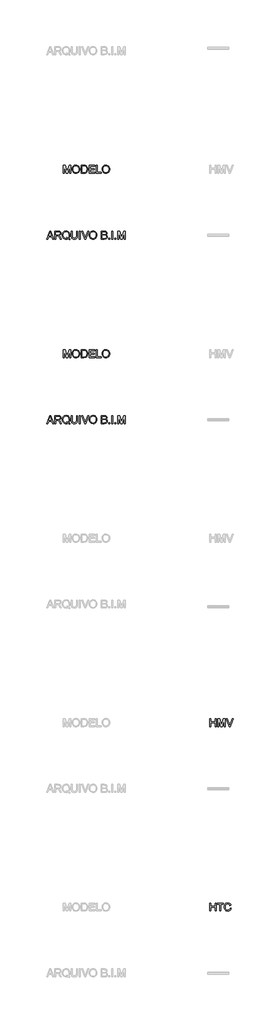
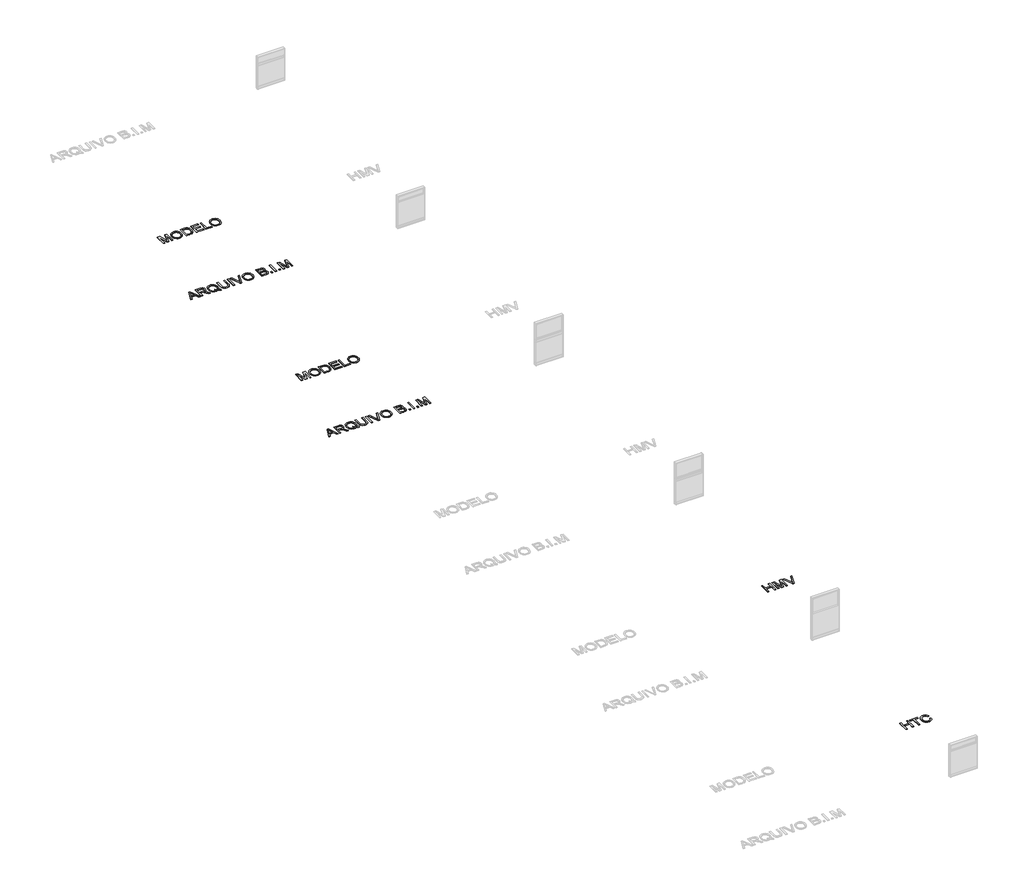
# One storey, part 4 of 8: 6 proxies.
"""IFC4 building model written with IfcOpenShell, lengths in millimetres."""

from ifc_helpers import new_model, si_unit, origin, origin_with_axes, place, context, project, spatial, polyline, outline, extrude, element, save

model = new_model("IFC4")

# Units and contexts
model_context = context("Model", 3, world=origin())
ifc_project = project(units=[si_unit("LENGTHUNIT", "METRE", prefix="MILLI")], contexts=[model_context])

# Site, building, storey
site = spatial("IfcSite", under=ifc_project)
building = spatial("IfcBuilding", under=site)
storey = spatial("IfcBuildingStorey", under=building, Name="Marelli - Linha HABITAT - Planta Baixa", Elevation=0.0)

# Proxies
placement = place(None, origin())
element("IfcBuildingElementProxy", 1, Name="300mm Arial", ObjectType="300mm Arial", at=placement, inside=storey, context=model_context, shape_type="SweptSolid", body=[
    extrude(outline(polyline([(29390.580402, -38280.5663201), (29510.8778144, -37979.1973896), (29542.9571244, -37979.1973896), (29663.2545368, -38280.5663201), (29623.449705, -38280.5663201), (29588.9423738, -38186.3885293), (29464.8189886, -38186.3885293), (29430.3852339, -38280.5663201), (29390.580402, -38280.5663201)]), holes=[polyline([(29478.6513517, -38148.717413), (29575.1835872, -38148.717413), (29548.0338959, -38074.6259792), (29526.9174694, -38016.8685059), (29508.1554877, -38068.1512561), (29478.6513517, -38148.717413)])]), origin_with_axes(), (0.0, 0.0, 1.0), 10.0),
    extrude(outline(polyline([(29703.5008271, -38280.5663201), (29703.5008271, -37979.1973896), (29833.3631714, -37979.1973896), (29868.2659757, -37981.2299376), (29893.6590304, -37987.3275817), (29912.2186771, -37998.5847708), (29926.6212572, -38016.0959537), (29935.8642923, -38037.8101885), (29938.945304, -38061.6765329), (29933.8409413, -38091.3646099), (29918.5278533, -38115.9759154), (29906.9280741, -38126.0052983), (29892.5461874, -38134.0205273), (29855.4360911, -38144.0085235), (29876.8468232, -38160.1217548), (29907.3810288, -38198.8965171), (29957.6337094, -38280.5663201), (29913.855752, -38280.5663201), (29874.6395313, -38218.0999573), (29846.3126176, -38176.750021), (29826.4102017, -38157.2154871), (29808.4943485, -38150.0417882), (29786.642158, -38148.717413), (29741.1719434, -38148.717413), (29741.1719434, -38280.5663201), (29703.5008271, -38280.5663201)]), holes=[polyline([(29741.1719434, -38111.0462967), (29825.4904967, -38111.0462967), (29849.706329, -38109.7127245), (29868.4959019, -38105.7120078), (29882.6409647, -38098.7774322), (29892.9232664, -38088.6422832), (29899.1864574, -38076.3826157), (29901.2741877, -38063.0744845), (29897.2918651, -38044.6987789), (29885.3448973, -38029.8915286), (29864.7894908, -38020.1242616), (29834.9818522, -38016.8685059), (29741.1719434, -38016.8685059), (29741.1719434, -38111.0462967)])]), origin_with_axes(), (0.0, 0.0, 1.0), 10.0),
    extrude(outline(polyline([(30231.2643374, -38244.4403081), (30255.5997314, -38263.036743), (30277.9853508, -38275.8574305), (30267.8318077, -38303.4485802), (30236.7641732, -38289.0460001), (30205.8069033, -38268.205485), (30170.9500843, -38281.0077785), (30132.5983863, -38285.2752096), (30094.0627473, -38280.3547879), (30059.2427164, -38265.5935229), (30030.0788713, -38241.9203165), (30008.5117893, -38210.2640708), (29995.185264, -38172.3630282), (29990.7430889, -38129.9554312), (29995.176067, -38087.511046), (30008.4750011, -38049.0581805), (30029.9593096, -38016.9512794), (30058.9484108, -37993.5447874), (30093.639683, -37979.2525719), (30132.2305043, -37974.4885001), (30171.1248282, -37979.3629365), (30205.9908443, -37993.9862458), (30234.9339603, -38017.3835407), (30256.0595839, -38048.5799339), (30268.9722419, -38085.9199564), (30273.2764612, -38127.7481393), (30270.6644991, -38162.5313819), (30262.8286126, -38193.5990164), (30249.7136194, -38220.9142546), (30231.2643374, -38244.4403081)]), holes=[polyline([(30142.9726585, -38194.3347804), (30174.6472983, -38206.3093393), (30200.215097, -38222.9559996), (30215.6983305, -38205.4816049), (30226.7577829, -38184.1076609), (30233.3934544, -38158.8341679), (30235.6053449, -38129.6611256), (30232.478348, -38096.5057608), (30223.0973571, -38067.8201623), (30207.6922985, -38044.3308969), (30186.4930986, -38026.7645316), (30160.934497, -38015.8108452), (30132.4512335, -38012.1596164), (30110.966925, -38014.0059242), (30091.3956028, -38019.5448474), (30073.7372671, -38028.7763863), (30057.9919177, -38041.7005406), (30045.0516685, -38058.2897193), (30035.8086334, -38078.5163313), (30030.2628123, -38102.3803764), (30028.4142053, -38129.8818548), (30030.2421189, -38156.6659634), (30035.7258599, -38180.1437324), (30044.8654282, -38200.3151621), (30057.6608239, -38217.1802523), (30073.2981079, -38230.4906827), (30090.9633415, -38239.9981331), (30110.6565245, -38245.7026032), (30132.3776571, -38247.6040933), (30153.2917485, -38245.6727128), (30172.918253, -38239.8785714), (30153.6228423, -38229.853787), (30133.2605739, -38223.1767288), (30142.9726585, -38194.3347804)])]), origin_with_axes(), (0.0, 0.0, 1.0), 10.0),
    extrude(outline(polyline([(30527.5564963, -37979.1973896), (30565.2276126, -37979.1973896), (30565.2276126, -38153.0584205), (30562.6708327, -38193.7737604), (30555.0004931, -38225.1265034), (30540.6714894, -38249.3147446), (30518.1387172, -38268.5365788), (30487.3469942, -38281.0905519), (30448.2411381, -38285.2752096), (30409.9906077, -38281.6331779), (30379.4104168, -38270.7070826), (30356.4913685, -38252.8740029), (30341.2242657, -38228.5110178), (30332.6434182, -38195.8338995), (30329.7831357, -38153.0584205), (30329.7831357, -37979.1973896), (30367.454252, -37979.1973896), (30367.454252, -38151.7340454), (30369.3120561, -38185.588386), (30374.8854683, -38209.1604248), (30384.9838291, -38225.4851883), (30400.4164788, -38237.597703), (30420.5396239, -38245.1024957), (30444.709471, -38247.6040933), (30483.0243808, -38242.6560805), (30497.3671801, -38236.4710644), (30508.500209, -38227.812042), (30516.8373347, -38215.6351479), (30522.7924245, -38198.8965171), (30527.5564963, -38151.7340454), (30527.5564963, -37979.1973896)])), origin_with_axes(), (0.0, 0.0, 1.0), 10.0),
    extrude(outline(polyline([(30635.8609557, -38280.5663201), (30635.8609557, -37979.1973896), (30673.532072, -37979.1973896), (30673.532072, -38280.5663201), (30635.8609557, -38280.5663201)])), origin_with_axes(), (0.0, 0.0, 1.0), 10.0),
    extrude(outline(polyline([(30837.9017474, -38280.5663201), (30717.972217, -37979.1973896), (30758.2920837, -37979.1973896), (30838.563935, -38196.3213432), (30854.8243192, -38245.2496485), (30870.8639742, -38196.3213432), (30951.3565547, -37979.1973896), (30991.6764214, -37979.1973896), (30876.8236625, -38280.5663201), (30837.9017474, -38280.5663201)])), origin_with_axes(), (0.0, 0.0, 1.0), 10.0),
    extrude(outline(polyline([(31012.5721187, -38133.8549804), (31015.0829134, -38098.5061192), (31022.6152972, -38067.213157), (31035.1692703, -38039.9760937), (31052.7448326, -38016.7949295), (31074.288922, -37998.2858666), (31098.7484761, -37985.0651074), (31126.1234951, -37977.1326519), (31156.4139789, -37974.4885001), (31195.9428992, -37979.454907), (31231.3883295, -37994.3541278), (31260.8188891, -38018.1376988), (31282.3031976, -38049.7571563), (31295.4365848, -38087.68579), (31299.8143806, -38130.3968896), (31295.2066586, -38173.6782064), (31281.3834926, -38212.140269), (31259.1082378, -38243.8149088), (31229.1442493, -38266.733957), (31194.0023217, -38280.6398965), (31156.1932497, -38285.2752096), (31116.057324, -38280.1524528), (31080.4095587, -38264.7841825), (31051.0525754, -38240.5591531), (31029.7889961, -38208.8661192), (31016.8763381, -38172.3998164), (31012.5721187, -38133.8549804)]), holes=[polyline([(31050.2432351, -38134.2228624), (31052.126331, -38159.1974513), (31057.7756189, -38181.3669401), (31067.1910987, -38200.7313286), (31080.3727705, -38217.2906169), (31096.3963306, -38230.5527628), (31114.3374757, -38240.0257242), (31134.1962056, -38245.709501), (31155.9725205, -38247.6040933), (31178.1213158, -38245.6911069), (31198.2145706, -38239.9521478), (31216.2522846, -38230.3872159), (31232.2344581, -38216.9963113), (31245.3195608, -38200.0875351), (31254.6660627, -38179.9689885), (31260.2739639, -38156.6406715), (31262.1432643, -38130.102584), (31258.9426909, -38096.7540812), (31249.3409708, -38067.9305269), (31233.5864244, -38044.358488), (31211.9273719, -38026.7645316), (31185.7985532, -38015.8108452), (31156.6347081, -38012.1596164), (31135.6148506, -38013.9185522), (31116.1125063, -38019.1953595), (31098.1276753, -38027.9900385), (31081.6603574, -38040.302589), (31067.9153664, -38056.7262208), (31058.0975157, -38077.8541437), (31052.2068052, -38103.6863575), (31050.2432351, -38134.2228624)])]), origin_with_axes(), (0.0, 0.0, 1.0), 10.0),
    extrude(outline(polyline([(31469.334404, -38280.5663201), (31469.334404, -37979.1973896), (31584.3343157, -37979.1973896), (31615.9629702, -37981.4138786), (31640.6570491, -37988.0633457), (31659.5845778, -37999.3113377), (31673.9135815, -38015.3234015), (31682.9358874, -38034.1589597), (31685.9433227, -38053.8774346), (31683.414134, -38072.0232141), (31675.8265679, -38089.0837416), (31663.125442, -38104.0105535), (31645.2555741, -38115.7551862), (31666.6019268, -38126.9020107), (31682.3748674, -38143.8613707), (31692.1145432, -38165.5112261), (31695.3611018, -38190.7295368), (31693.1446128, -38211.7447958), (31686.4951457, -38231.2333445), (31676.5715289, -38247.8064284), (31664.5325906, -38260.0752929), (31649.7897196, -38268.9596431), (31631.7543048, -38275.3791839), (31583.4513989, -38280.5663201), (31469.334404, -38280.5663201)]), holes=[polyline([(31507.0055203, -38101.6285176), (31575.7994534, -38101.6285176), (31615.9721672, -38098.3911561), (31630.0344565, -38092.8085468), (31640.1420143, -38084.4484284), (31646.2396584, -38073.4395597), (31648.2722064, -38059.9106994), (31646.3776141, -38046.7773121), (31640.6938373, -38035.3361821), (31631.4783933, -38026.4058467), (31618.9887996, -38020.8048433), (31570.575529, -38016.8685059), (31507.0055203, -38016.8685059), (31507.0055203, -38101.6285176)]), polyline([(31507.0055203, -38242.8952038), (31584.2607393, -38242.8952038), (31612.2197709, -38241.4236758), (31635.8745832, -38233.2199073), (31651.5463562, -38216.4812765), (31656.1540782, -38204.6538704), (31657.6899855, -38191.0974188), (31655.8873637, -38175.3520694), (31650.4794984, -38161.814012), (31641.0341282, -38151.2282076), (31627.1189917, -38144.3396173), (31607.4097138, -38140.5596298), (31580.5819193, -38139.2996339), (31507.0055203, -38139.2996339), (31507.0055203, -38242.8952038)])]), origin_with_axes(), (0.0, 0.0, 1.0), 10.0),
    extrude(outline(polyline([(31751.8677763, -38280.5663201), (31751.8677763, -38242.8952038), (31789.5388926, -38242.8952038), (31789.5388926, -38280.5663201), (31751.8677763, -38280.5663201)])), origin_with_axes(), (0.0, 0.0, 1.0), 10.0),
    extrude(outline(polyline([(31869.5900147, -38280.5663201), (31869.5900147, -37979.1973896), (31907.261131, -37979.1973896), (31907.261131, -38280.5663201), (31869.5900147, -38280.5663201)])), origin_with_axes(), (0.0, 0.0, 1.0), 10.0),
    extrude(outline(polyline([(31987.3122532, -38280.5663201), (31987.3122532, -38242.8952038), (32024.9833695, -38242.8952038), (32024.9833695, -38280.5663201), (31987.3122532, -38280.5663201)])), origin_with_axes(), (0.0, 0.0, 1.0), 10.0),
    extrude(outline(polyline([(32100.3256021, -38280.5663201), (32100.3256021, -37979.1973896), (32165.1464096, -37979.1973896), (32226.803432, -38191.6124536), (32239.2378435, -38235.9790223), (32252.7023245, -38187.9336337), (32313.3292773, -37979.1973896), (32378.1500848, -37979.1973896), (32378.1500848, -38280.5663201), (32340.4789685, -38280.5663201), (32340.4789685, -38016.8685059), (32264.7688539, -38280.5663201), (32213.706833, -38280.5663201), (32137.9967184, -38016.8685059), (32137.9967184, -38280.5663201), (32100.3256021, -38280.5663201)])), origin_with_axes(), (0.0, 0.0, 1.0), 10.0),
])
element("IfcBuildingElementProxy", 2, Name="300mm Arial", ObjectType="300mm Arial", at=placement, inside=storey, context=model_context, shape_type="SweptSolid", body=[
    extrude(outline(polyline([(30033.1230948, -35780.5663201), (30033.1230948, -35479.1973896), (30097.9439023, -35479.1973896), (30159.6009247, -35691.6124536), (30172.0353362, -35735.9790223), (30185.4998172, -35687.9336337), (30246.12677, -35479.1973896), (30310.9475775, -35479.1973896), (30310.9475775, -35780.5663201), (30273.2764612, -35780.5663201), (30273.2764612, -35516.8685059), (30197.5663466, -35780.5663201), (30146.5043257, -35780.5663201), (30070.7942111, -35516.8685059), (30070.7942111, -35780.5663201), (30033.1230948, -35780.5663201)])), origin_with_axes(), (0.0, 0.0, 1.0), 10.0),
    extrude(outline(polyline([(30362.7453625, -35633.8549804), (30365.2561571, -35598.5061192), (30372.7885409, -35567.213157), (30385.342514, -35539.9760937), (30402.9180763, -35516.7949295), (30424.4621657, -35498.2858666), (30448.9217198, -35485.0651074), (30476.2967388, -35477.1326519), (30506.5872226, -35474.4885001), (30546.116143, -35479.454907), (30581.5615732, -35494.3541278), (30610.9921328, -35518.1376988), (30632.4764413, -35549.7571563), (30645.6098286, -35587.68579), (30649.9876243, -35630.3968896), (30645.3799023, -35673.6782064), (30631.5567363, -35712.140269), (30609.2814815, -35743.8149088), (30579.317493, -35766.733957), (30544.1755654, -35780.6398965), (30506.3664934, -35785.2752096), (30466.2305677, -35780.1524528), (30430.5828024, -35764.7841825), (30401.2258192, -35740.5591531), (30379.9622398, -35708.8661192), (30367.0495818, -35672.3998164), (30362.7453625, -35633.8549804)]), holes=[polyline([(30400.4164788, -35634.2228624), (30402.2995747, -35659.1974513), (30407.9488626, -35681.3669401), (30417.3643424, -35700.7313286), (30430.5460142, -35717.2906169), (30446.5695743, -35730.5527628), (30464.5107194, -35740.0257242), (30484.3694493, -35745.709501), (30506.1457642, -35747.6040933), (30528.2945596, -35745.6911069), (30548.3878143, -35739.9521478), (30566.4255284, -35730.3872159), (30582.4077018, -35716.9963113), (30595.4928045, -35700.0875351), (30604.8393064, -35679.9689885), (30610.4472076, -35656.6406715), (30612.316508, -35630.102584), (30609.1159346, -35596.7540812), (30599.5142146, -35567.9305269), (30583.7596681, -35544.358488), (30562.1006157, -35526.7645316), (30535.9717969, -35515.8108452), (30506.8079518, -35512.1596164), (30485.7880943, -35513.9185522), (30466.28575, -35519.1953595), (30448.300919, -35527.9900385), (30431.8336012, -35540.302589), (30418.0886101, -35556.7262208), (30408.2707594, -35577.8541437), (30402.3800489, -35603.6863575), (30400.4164788, -35634.2228624)])]), origin_with_axes(), (0.0, 0.0, 1.0), 10.0),
    extrude(outline(polyline([(30701.7854092, -35780.5663201), (30701.7854092, -35479.1973896), (30805.7488611, -35479.1973896), (30859.5332088, -35483.5383972), (30883.555903, -35491.9077126), (30903.826201, -35505.0962821), (30924.666716, -35528.0521186), (30939.5107545, -35556.5997614), (30948.3951047, -35590.1873876), (30951.3565547, -35628.2631741), (30949.3515979, -35660.6091985), (30943.3367273, -35689.0740679), (30934.1764656, -35713.3082943), (30922.7353355, -35732.9623899), (30909.5651601, -35748.477813), (30895.2177623, -35760.2960221), (30878.745846, -35769.0608107), (30859.202115, -35775.4159721), (30810.7520562, -35780.5663201), (30701.7854092, -35780.5663201)]), holes=[polyline([(30739.4565255, -35742.8952038), (30806.1167431, -35742.8952038), (30833.6894986, -35741.5340404), (30854.60359, -35737.4505502), (30870.3857276, -35730.8838566), (30882.5626217, -35722.0730828), (30895.6500236, -35705.7667134), (30905.48167, -35684.6594839), (30911.6344963, -35658.6594239), (30913.6854384, -35627.6745629), (30909.6663276, -35586.6189322), (30897.6089953, -35556.3054558), (30879.7943096, -35535.4833349), (30858.5031392, -35522.9017706), (30836.8348897, -35518.3768221), (30805.0866735, -35516.8685059), (30739.4565255, -35516.8685059), (30739.4565255, -35742.8952038)])]), origin_with_axes(), (0.0, 0.0, 1.0), 10.0),
    extrude(outline(polyline([(31003.1543397, -35780.5663201), (31003.1543397, -35479.1973896), (31219.7632584, -35479.1973896), (31219.7632584, -35516.8685059), (31040.825456, -35516.8685059), (31040.825456, -35606.3374072), (31210.3454794, -35606.3374072), (31210.3454794, -35644.0085235), (31040.825456, -35644.0085235), (31040.825456, -35742.8952038), (31224.472148, -35742.8952038), (31224.472148, -35780.5663201), (31003.1543397, -35780.5663201)])), origin_with_axes(), (0.0, 0.0, 1.0), 10.0),
    extrude(outline(polyline([(31280.9788224, -35780.5663201), (31280.9788224, -35479.1973896), (31318.6499387, -35479.1973896), (31318.6499387, -35742.8952038), (31469.334404, -35742.8952038), (31469.334404, -35780.5663201), (31280.9788224, -35780.5663201)])), origin_with_axes(), (0.0, 0.0, 1.0), 10.0),
    extrude(outline(polyline([(31497.5877412, -35633.8549804), (31500.0985358, -35598.5061192), (31507.6309197, -35567.213157), (31520.1848927, -35539.9760937), (31537.7604551, -35516.7949295), (31559.3045444, -35498.2858666), (31583.7640986, -35485.0651074), (31611.1391175, -35477.1326519), (31641.4296013, -35474.4885001), (31680.9585217, -35479.454907), (31716.4039519, -35494.3541278), (31745.8345115, -35518.1376988), (31767.3188201, -35549.7571563), (31780.4522073, -35587.68579), (31784.830003, -35630.3968896), (31780.222281, -35673.6782064), (31766.3991151, -35712.140269), (31744.1238603, -35743.8149088), (31714.1598717, -35766.733957), (31679.0179442, -35780.6398965), (31641.2088721, -35785.2752096), (31601.0729464, -35780.1524528), (31565.4251811, -35764.7841825), (31536.0681979, -35740.5591531), (31514.8046186, -35708.8661192), (31501.8919605, -35672.3998164), (31497.5877412, -35633.8549804)]), holes=[polyline([(31535.2588575, -35634.2228624), (31537.1419535, -35659.1974513), (31542.7912413, -35681.3669401), (31552.2067212, -35700.7313286), (31565.3883929, -35717.2906169), (31581.4119531, -35730.5527628), (31599.3530981, -35740.0257242), (31619.2118281, -35745.709501), (31640.9881429, -35747.6040933), (31663.1369383, -35745.6911069), (31683.230193, -35739.9521478), (31701.2679071, -35730.3872159), (31717.2500805, -35716.9963113), (31730.3351832, -35700.0875351), (31739.6816852, -35679.9689885), (31745.2895863, -35656.6406715), (31747.1588867, -35630.102584), (31743.9583134, -35596.7540812), (31734.3565933, -35567.9305269), (31718.6020468, -35544.358488), (31696.9429944, -35526.7645316), (31670.8141757, -35515.8108452), (31641.6503305, -35512.1596164), (31620.630473, -35513.9185522), (31601.1281287, -35519.1953595), (31583.1432977, -35527.9900385), (31566.6759799, -35540.302589), (31552.9309888, -35556.7262208), (31543.1131381, -35577.8541437), (31537.2224276, -35603.6863575), (31535.2588575, -35634.2228624)])]), origin_with_axes(), (0.0, 0.0, 1.0), 10.0),
])
element("IfcBuildingElementProxy", 3, Name="300mm Arial", ObjectType="300mm Arial", at=placement, inside=storey, context=model_context, shape_type="SweptSolid", body=[
    extrude(outline(polyline([(29390.580402, -45280.5663201), (29510.8778144, -44979.1973896), (29542.9571244, -44979.1973896), (29663.2545368, -45280.5663201), (29623.449705, -45280.5663201), (29588.9423738, -45186.3885293), (29464.8189886, -45186.3885293), (29430.3852339, -45280.5663201), (29390.580402, -45280.5663201)]), holes=[polyline([(29478.6513517, -45148.717413), (29575.1835872, -45148.717413), (29548.0338959, -45074.6259792), (29526.9174694, -45016.8685059), (29508.1554877, -45068.1512561), (29478.6513517, -45148.717413)])]), origin_with_axes(), (0.0, 0.0, 1.0), 10.0),
    extrude(outline(polyline([(29703.5008271, -45280.5663201), (29703.5008271, -44979.1973896), (29833.3631714, -44979.1973896), (29868.2659757, -44981.2299376), (29893.6590304, -44987.3275817), (29912.2186771, -44998.5847708), (29926.6212572, -45016.0959537), (29935.8642923, -45037.8101885), (29938.945304, -45061.6765329), (29933.8409413, -45091.3646099), (29918.5278533, -45115.9759154), (29906.9280741, -45126.0052983), (29892.5461874, -45134.0205273), (29855.4360911, -45144.0085235), (29876.8468232, -45160.1217548), (29907.3810288, -45198.8965171), (29957.6337094, -45280.5663201), (29913.855752, -45280.5663201), (29874.6395313, -45218.0999573), (29846.3126176, -45176.750021), (29826.4102017, -45157.2154871), (29808.4943485, -45150.0417882), (29786.642158, -45148.717413), (29741.1719434, -45148.717413), (29741.1719434, -45280.5663201), (29703.5008271, -45280.5663201)]), holes=[polyline([(29741.1719434, -45111.0462967), (29825.4904967, -45111.0462967), (29849.706329, -45109.7127245), (29868.4959019, -45105.7120078), (29882.6409647, -45098.7774322), (29892.9232664, -45088.6422832), (29899.1864574, -45076.3826157), (29901.2741877, -45063.0744845), (29897.2918651, -45044.6987789), (29885.3448973, -45029.8915286), (29864.7894908, -45020.1242616), (29834.9818522, -45016.8685059), (29741.1719434, -45016.8685059), (29741.1719434, -45111.0462967)])]), origin_with_axes(), (0.0, 0.0, 1.0), 10.0),
    extrude(outline(polyline([(30231.2643374, -45244.4403081), (30255.5997314, -45263.036743), (30277.9853508, -45275.8574305), (30267.8318077, -45303.4485802), (30236.7641732, -45289.0460001), (30205.8069033, -45268.205485), (30170.9500843, -45281.0077785), (30132.5983863, -45285.2752096), (30094.0627473, -45280.3547879), (30059.2427164, -45265.5935229), (30030.0788713, -45241.9203165), (30008.5117893, -45210.2640708), (29995.185264, -45172.3630282), (29990.7430889, -45129.9554312), (29995.176067, -45087.511046), (30008.4750011, -45049.0581805), (30029.9593096, -45016.9512794), (30058.9484108, -44993.5447874), (30093.639683, -44979.2525719), (30132.2305043, -44974.4885001), (30171.1248282, -44979.3629365), (30205.9908443, -44993.9862458), (30234.9339603, -45017.3835407), (30256.0595839, -45048.5799339), (30268.9722419, -45085.9199564), (30273.2764612, -45127.7481393), (30270.6644991, -45162.5313819), (30262.8286126, -45193.5990164), (30249.7136194, -45220.9142546), (30231.2643374, -45244.4403081)]), holes=[polyline([(30142.9726585, -45194.3347804), (30174.6472983, -45206.3093393), (30200.215097, -45222.9559996), (30215.6983305, -45205.4816049), (30226.7577829, -45184.1076609), (30233.3934544, -45158.8341679), (30235.6053449, -45129.6611256), (30232.478348, -45096.5057608), (30223.0973571, -45067.8201623), (30207.6922985, -45044.3308969), (30186.4930986, -45026.7645316), (30160.934497, -45015.8108452), (30132.4512335, -45012.1596164), (30110.966925, -45014.0059242), (30091.3956028, -45019.5448474), (30073.7372671, -45028.7763863), (30057.9919177, -45041.7005406), (30045.0516685, -45058.2897193), (30035.8086334, -45078.5163313), (30030.2628123, -45102.3803764), (30028.4142053, -45129.8818548), (30030.2421189, -45156.6659634), (30035.7258599, -45180.1437324), (30044.8654282, -45200.3151621), (30057.6608239, -45217.1802523), (30073.2981079, -45230.4906827), (30090.9633415, -45239.9981331), (30110.6565245, -45245.7026032), (30132.3776571, -45247.6040933), (30153.2917485, -45245.6727128), (30172.918253, -45239.8785714), (30153.6228423, -45229.853787), (30133.2605739, -45223.1767288), (30142.9726585, -45194.3347804)])]), origin_with_axes(), (0.0, 0.0, 1.0), 10.0),
    extrude(outline(polyline([(30527.5564963, -44979.1973896), (30565.2276126, -44979.1973896), (30565.2276126, -45153.0584205), (30562.6708327, -45193.7737604), (30555.0004931, -45225.1265034), (30540.6714894, -45249.3147446), (30518.1387172, -45268.5365788), (30487.3469942, -45281.0905519), (30448.2411381, -45285.2752096), (30409.9906077, -45281.6331779), (30379.4104168, -45270.7070826), (30356.4913685, -45252.8740029), (30341.2242657, -45228.5110178), (30332.6434182, -45195.8338995), (30329.7831357, -45153.0584205), (30329.7831357, -44979.1973896), (30367.454252, -44979.1973896), (30367.454252, -45151.7340454), (30369.3120561, -45185.588386), (30374.8854683, -45209.1604248), (30384.9838291, -45225.4851883), (30400.4164788, -45237.597703), (30420.5396239, -45245.1024957), (30444.709471, -45247.6040933), (30483.0243808, -45242.6560805), (30497.3671801, -45236.4710644), (30508.500209, -45227.812042), (30516.8373347, -45215.6351479), (30522.7924245, -45198.8965171), (30527.5564963, -45151.7340454), (30527.5564963, -44979.1973896)])), origin_with_axes(), (0.0, 0.0, 1.0), 10.0),
    extrude(outline(polyline([(30635.8609557, -45280.5663201), (30635.8609557, -44979.1973896), (30673.532072, -44979.1973896), (30673.532072, -45280.5663201), (30635.8609557, -45280.5663201)])), origin_with_axes(), (0.0, 0.0, 1.0), 10.0),
    extrude(outline(polyline([(30837.9017474, -45280.5663201), (30717.972217, -44979.1973896), (30758.2920837, -44979.1973896), (30838.563935, -45196.3213432), (30854.8243192, -45245.2496485), (30870.8639742, -45196.3213432), (30951.3565547, -44979.1973896), (30991.6764214, -44979.1973896), (30876.8236625, -45280.5663201), (30837.9017474, -45280.5663201)])), origin_with_axes(), (0.0, 0.0, 1.0), 10.0),
    extrude(outline(polyline([(31012.5721187, -45133.8549804), (31015.0829134, -45098.5061192), (31022.6152972, -45067.213157), (31035.1692703, -45039.9760937), (31052.7448326, -45016.7949295), (31074.288922, -44998.2858666), (31098.7484761, -44985.0651074), (31126.1234951, -44977.1326519), (31156.4139789, -44974.4885001), (31195.9428992, -44979.454907), (31231.3883295, -44994.3541278), (31260.8188891, -45018.1376988), (31282.3031976, -45049.7571563), (31295.4365848, -45087.68579), (31299.8143806, -45130.3968896), (31295.2066586, -45173.6782064), (31281.3834926, -45212.140269), (31259.1082378, -45243.8149088), (31229.1442493, -45266.733957), (31194.0023217, -45280.6398965), (31156.1932497, -45285.2752096), (31116.057324, -45280.1524528), (31080.4095587, -45264.7841825), (31051.0525754, -45240.5591531), (31029.7889961, -45208.8661192), (31016.8763381, -45172.3998164), (31012.5721187, -45133.8549804)]), holes=[polyline([(31050.2432351, -45134.2228624), (31052.126331, -45159.1974513), (31057.7756189, -45181.3669401), (31067.1910987, -45200.7313286), (31080.3727705, -45217.2906169), (31096.3963306, -45230.5527628), (31114.3374757, -45240.0257242), (31134.1962056, -45245.709501), (31155.9725205, -45247.6040933), (31178.1213158, -45245.6911069), (31198.2145706, -45239.9521478), (31216.2522846, -45230.3872159), (31232.2344581, -45216.9963113), (31245.3195608, -45200.0875351), (31254.6660627, -45179.9689885), (31260.2739639, -45156.6406715), (31262.1432643, -45130.102584), (31258.9426909, -45096.7540812), (31249.3409708, -45067.9305269), (31233.5864244, -45044.358488), (31211.9273719, -45026.7645316), (31185.7985532, -45015.8108452), (31156.6347081, -45012.1596164), (31135.6148506, -45013.9185522), (31116.1125063, -45019.1953595), (31098.1276753, -45027.9900385), (31081.6603574, -45040.302589), (31067.9153664, -45056.7262208), (31058.0975157, -45077.8541437), (31052.2068052, -45103.6863575), (31050.2432351, -45134.2228624)])]), origin_with_axes(), (0.0, 0.0, 1.0), 10.0),
    extrude(outline(polyline([(31469.334404, -45280.5663201), (31469.334404, -44979.1973896), (31584.3343157, -44979.1973896), (31615.9629702, -44981.4138786), (31640.6570491, -44988.0633457), (31659.5845778, -44999.3113377), (31673.9135815, -45015.3234015), (31682.9358874, -45034.1589597), (31685.9433227, -45053.8774346), (31683.414134, -45072.0232141), (31675.8265679, -45089.0837416), (31663.125442, -45104.0105535), (31645.2555741, -45115.7551862), (31666.6019268, -45126.9020107), (31682.3748674, -45143.8613707), (31692.1145432, -45165.5112261), (31695.3611018, -45190.7295368), (31693.1446128, -45211.7447958), (31686.4951457, -45231.2333445), (31676.5715289, -45247.8064284), (31664.5325906, -45260.0752929), (31649.7897196, -45268.9596431), (31631.7543048, -45275.3791839), (31583.4513989, -45280.5663201), (31469.334404, -45280.5663201)]), holes=[polyline([(31507.0055203, -45101.6285176), (31575.7994534, -45101.6285176), (31615.9721672, -45098.3911561), (31630.0344565, -45092.8085468), (31640.1420143, -45084.4484284), (31646.2396584, -45073.4395597), (31648.2722064, -45059.9106994), (31646.3776141, -45046.7773121), (31640.6938373, -45035.3361821), (31631.4783933, -45026.4058467), (31618.9887996, -45020.8048433), (31570.575529, -45016.8685059), (31507.0055203, -45016.8685059), (31507.0055203, -45101.6285176)]), polyline([(31507.0055203, -45242.8952038), (31584.2607393, -45242.8952038), (31612.2197709, -45241.4236758), (31635.8745832, -45233.2199073), (31651.5463562, -45216.4812765), (31656.1540782, -45204.6538704), (31657.6899855, -45191.0974188), (31655.8873637, -45175.3520694), (31650.4794984, -45161.814012), (31641.0341282, -45151.2282076), (31627.1189917, -45144.3396173), (31607.4097138, -45140.5596298), (31580.5819193, -45139.2996339), (31507.0055203, -45139.2996339), (31507.0055203, -45242.8952038)])]), origin_with_axes(), (0.0, 0.0, 1.0), 10.0),
    extrude(outline(polyline([(31751.8677763, -45280.5663201), (31751.8677763, -45242.8952038), (31789.5388926, -45242.8952038), (31789.5388926, -45280.5663201), (31751.8677763, -45280.5663201)])), origin_with_axes(), (0.0, 0.0, 1.0), 10.0),
    extrude(outline(polyline([(31869.5900147, -45280.5663201), (31869.5900147, -44979.1973896), (31907.261131, -44979.1973896), (31907.261131, -45280.5663201), (31869.5900147, -45280.5663201)])), origin_with_axes(), (0.0, 0.0, 1.0), 10.0),
    extrude(outline(polyline([(31987.3122532, -45280.5663201), (31987.3122532, -45242.8952038), (32024.9833695, -45242.8952038), (32024.9833695, -45280.5663201), (31987.3122532, -45280.5663201)])), origin_with_axes(), (0.0, 0.0, 1.0), 10.0),
    extrude(outline(polyline([(32100.3256021, -45280.5663201), (32100.3256021, -44979.1973896), (32165.1464096, -44979.1973896), (32226.803432, -45191.6124536), (32239.2378435, -45235.9790223), (32252.7023245, -45187.9336337), (32313.3292773, -44979.1973896), (32378.1500848, -44979.1973896), (32378.1500848, -45280.5663201), (32340.4789685, -45280.5663201), (32340.4789685, -45016.8685059), (32264.7688539, -45280.5663201), (32213.706833, -45280.5663201), (32137.9967184, -45016.8685059), (32137.9967184, -45280.5663201), (32100.3256021, -45280.5663201)])), origin_with_axes(), (0.0, 0.0, 1.0), 10.0),
])
element("IfcBuildingElementProxy", 4, Name="300mm Arial", ObjectType="300mm Arial", at=placement, inside=storey, context=model_context, shape_type="SweptSolid", body=[
    extrude(outline(polyline([(30033.1230948, -42780.5663201), (30033.1230948, -42479.1973896), (30097.9439023, -42479.1973896), (30159.6009247, -42691.6124536), (30172.0353362, -42735.9790223), (30185.4998172, -42687.9336337), (30246.12677, -42479.1973896), (30310.9475775, -42479.1973896), (30310.9475775, -42780.5663201), (30273.2764612, -42780.5663201), (30273.2764612, -42516.8685059), (30197.5663466, -42780.5663201), (30146.5043257, -42780.5663201), (30070.7942111, -42516.8685059), (30070.7942111, -42780.5663201), (30033.1230948, -42780.5663201)])), origin_with_axes(), (0.0, 0.0, 1.0), 10.0),
    extrude(outline(polyline([(30362.7453625, -42633.8549804), (30365.2561571, -42598.5061192), (30372.7885409, -42567.213157), (30385.342514, -42539.9760937), (30402.9180763, -42516.7949295), (30424.4621657, -42498.2858666), (30448.9217198, -42485.0651074), (30476.2967388, -42477.1326519), (30506.5872226, -42474.4885001), (30546.116143, -42479.454907), (30581.5615732, -42494.3541278), (30610.9921328, -42518.1376988), (30632.4764413, -42549.7571563), (30645.6098286, -42587.68579), (30649.9876243, -42630.3968896), (30645.3799023, -42673.6782064), (30631.5567363, -42712.140269), (30609.2814815, -42743.8149088), (30579.317493, -42766.733957), (30544.1755654, -42780.6398965), (30506.3664934, -42785.2752096), (30466.2305677, -42780.1524528), (30430.5828024, -42764.7841825), (30401.2258192, -42740.5591531), (30379.9622398, -42708.8661192), (30367.0495818, -42672.3998164), (30362.7453625, -42633.8549804)]), holes=[polyline([(30400.4164788, -42634.2228624), (30402.2995747, -42659.1974513), (30407.9488626, -42681.3669401), (30417.3643424, -42700.7313286), (30430.5460142, -42717.2906169), (30446.5695743, -42730.5527628), (30464.5107194, -42740.0257242), (30484.3694493, -42745.709501), (30506.1457642, -42747.6040933), (30528.2945596, -42745.6911069), (30548.3878143, -42739.9521478), (30566.4255284, -42730.3872159), (30582.4077018, -42716.9963113), (30595.4928045, -42700.0875351), (30604.8393064, -42679.9689885), (30610.4472076, -42656.6406715), (30612.316508, -42630.102584), (30609.1159346, -42596.7540812), (30599.5142146, -42567.9305269), (30583.7596681, -42544.358488), (30562.1006157, -42526.7645316), (30535.9717969, -42515.8108452), (30506.8079518, -42512.1596164), (30485.7880943, -42513.9185522), (30466.28575, -42519.1953595), (30448.300919, -42527.9900385), (30431.8336012, -42540.302589), (30418.0886101, -42556.7262208), (30408.2707594, -42577.8541437), (30402.3800489, -42603.6863575), (30400.4164788, -42634.2228624)])]), origin_with_axes(), (0.0, 0.0, 1.0), 10.0),
    extrude(outline(polyline([(30701.7854092, -42780.5663201), (30701.7854092, -42479.1973896), (30805.7488611, -42479.1973896), (30859.5332088, -42483.5383972), (30883.555903, -42491.9077126), (30903.826201, -42505.0962821), (30924.666716, -42528.0521186), (30939.5107545, -42556.5997614), (30948.3951047, -42590.1873876), (30951.3565547, -42628.2631741), (30949.3515979, -42660.6091985), (30943.3367273, -42689.0740679), (30934.1764656, -42713.3082943), (30922.7353355, -42732.9623899), (30909.5651601, -42748.477813), (30895.2177623, -42760.2960221), (30878.745846, -42769.0608107), (30859.202115, -42775.4159721), (30810.7520562, -42780.5663201), (30701.7854092, -42780.5663201)]), holes=[polyline([(30739.4565255, -42742.8952038), (30806.1167431, -42742.8952038), (30833.6894986, -42741.5340404), (30854.60359, -42737.4505502), (30870.3857276, -42730.8838566), (30882.5626217, -42722.0730828), (30895.6500236, -42705.7667134), (30905.48167, -42684.6594839), (30911.6344963, -42658.6594239), (30913.6854384, -42627.6745629), (30909.6663276, -42586.6189322), (30897.6089953, -42556.3054558), (30879.7943096, -42535.4833349), (30858.5031392, -42522.9017706), (30836.8348897, -42518.3768221), (30805.0866735, -42516.8685059), (30739.4565255, -42516.8685059), (30739.4565255, -42742.8952038)])]), origin_with_axes(), (0.0, 0.0, 1.0), 10.0),
    extrude(outline(polyline([(31003.1543397, -42780.5663201), (31003.1543397, -42479.1973896), (31219.7632584, -42479.1973896), (31219.7632584, -42516.8685059), (31040.825456, -42516.8685059), (31040.825456, -42606.3374072), (31210.3454794, -42606.3374072), (31210.3454794, -42644.0085235), (31040.825456, -42644.0085235), (31040.825456, -42742.8952038), (31224.472148, -42742.8952038), (31224.472148, -42780.5663201), (31003.1543397, -42780.5663201)])), origin_with_axes(), (0.0, 0.0, 1.0), 10.0),
    extrude(outline(polyline([(31280.9788224, -42780.5663201), (31280.9788224, -42479.1973896), (31318.6499387, -42479.1973896), (31318.6499387, -42742.8952038), (31469.334404, -42742.8952038), (31469.334404, -42780.5663201), (31280.9788224, -42780.5663201)])), origin_with_axes(), (0.0, 0.0, 1.0), 10.0),
    extrude(outline(polyline([(31497.5877412, -42633.8549804), (31500.0985358, -42598.5061192), (31507.6309197, -42567.213157), (31520.1848927, -42539.9760937), (31537.7604551, -42516.7949295), (31559.3045444, -42498.2858666), (31583.7640986, -42485.0651074), (31611.1391175, -42477.1326519), (31641.4296013, -42474.4885001), (31680.9585217, -42479.454907), (31716.4039519, -42494.3541278), (31745.8345115, -42518.1376988), (31767.3188201, -42549.7571563), (31780.4522073, -42587.68579), (31784.830003, -42630.3968896), (31780.222281, -42673.6782064), (31766.3991151, -42712.140269), (31744.1238603, -42743.8149088), (31714.1598717, -42766.733957), (31679.0179442, -42780.6398965), (31641.2088721, -42785.2752096), (31601.0729464, -42780.1524528), (31565.4251811, -42764.7841825), (31536.0681979, -42740.5591531), (31514.8046186, -42708.8661192), (31501.8919605, -42672.3998164), (31497.5877412, -42633.8549804)]), holes=[polyline([(31535.2588575, -42634.2228624), (31537.1419535, -42659.1974513), (31542.7912413, -42681.3669401), (31552.2067212, -42700.7313286), (31565.3883929, -42717.2906169), (31581.4119531, -42730.5527628), (31599.3530981, -42740.0257242), (31619.2118281, -42745.709501), (31640.9881429, -42747.6040933), (31663.1369383, -42745.6911069), (31683.230193, -42739.9521478), (31701.2679071, -42730.3872159), (31717.2500805, -42716.9963113), (31730.3351832, -42700.0875351), (31739.6816852, -42679.9689885), (31745.2895863, -42656.6406715), (31747.1588867, -42630.102584), (31743.9583134, -42596.7540812), (31734.3565933, -42567.9305269), (31718.6020468, -42544.358488), (31696.9429944, -42526.7645316), (31670.8141757, -42515.8108452), (31641.6503305, -42512.1596164), (31620.630473, -42513.9185522), (31601.1281287, -42519.1953595), (31583.1432977, -42527.9900385), (31566.6759799, -42540.302589), (31552.9309888, -42556.7262208), (31543.1131381, -42577.8541437), (31537.2224276, -42603.6863575), (31535.2588575, -42634.2228624)])]), origin_with_axes(), (0.0, 0.0, 1.0), 10.0),
])
element("IfcBuildingElementProxy", 5, Name="300mm Arial", ObjectType="300mm Arial", at=placement, inside=storey, context=model_context, shape_type="SweptSolid", body=[
    extrude(outline(polyline([(35588.7720603, -56780.5663201), (35588.7720603, -56479.1973896), (35626.4431766, -56479.1973896), (35626.4431766, -56601.6285176), (35786.5454209, -56601.6285176), (35786.5454209, -56479.1973896), (35824.2165372, -56479.1973896), (35824.2165372, -56780.5663201), (35786.5454209, -56780.5663201), (35786.5454209, -56639.2996339), (35626.4431766, -56639.2996339), (35626.4431766, -56780.5663201), (35588.7720603, -56780.5663201)])), origin_with_axes(), (0.0, 0.0, 1.0), 10.0),
    extrude(outline(polyline([(35890.1409908, -56780.5663201), (35890.1409908, -56479.1973896), (35954.9617983, -56479.1973896), (36016.6188207, -56691.6124536), (36029.0532321, -56735.9790223), (36042.5177132, -56687.9336337), (36103.144666, -56479.1973896), (36167.9654735, -56479.1973896), (36167.9654735, -56780.5663201), (36130.2943572, -56780.5663201), (36130.2943572, -56516.8685059), (36054.5842426, -56780.5663201), (36003.5222217, -56780.5663201), (35927.8121071, -56516.8685059), (35927.8121071, -56780.5663201), (35890.1409908, -56780.5663201)])), origin_with_axes(), (0.0, 0.0, 1.0), 10.0),
    extrude(outline(polyline([(36322.9173699, -56780.5663201), (36202.9878395, -56479.1973896), (36243.3077061, -56479.1973896), (36323.5795575, -56696.3213432), (36339.8399417, -56745.2496485), (36355.8795966, -56696.3213432), (36436.3721772, -56479.1973896), (36476.6920439, -56479.1973896), (36361.839285, -56780.5663201), (36322.9173699, -56780.5663201)])), origin_with_axes(), (0.0, 0.0, 1.0), 10.0),
])
element("IfcBuildingElementProxy", 6, Name="300mm Arial", ObjectType="300mm Arial", at=placement, inside=storey, context=model_context, shape_type="SweptSolid", body=[
    extrude(outline(polyline([(35588.7720603, -63780.5663201), (35588.7720603, -63479.1973896), (35626.4431766, -63479.1973896), (35626.4431766, -63601.6285176), (35786.5454209, -63601.6285176), (35786.5454209, -63479.1973896), (35824.2165372, -63479.1973896), (35824.2165372, -63780.5663201), (35786.5454209, -63780.5663201), (35786.5454209, -63639.2996339), (35626.4431766, -63639.2996339), (35626.4431766, -63780.5663201), (35588.7720603, -63780.5663201)])), origin_with_axes(), (0.0, 0.0, 1.0), 10.0),
    extrude(outline(polyline([(35965.4832234, -63780.5663201), (35965.4832234, -63516.8685059), (35866.5965431, -63516.8685059), (35866.5965431, -63479.1973896), (36102.04102, -63479.1973896), (36102.04102, -63516.8685059), (36003.1543397, -63516.8685059), (36003.1543397, -63780.5663201), (35965.4832234, -63780.5663201)])), origin_with_axes(), (0.0, 0.0, 1.0), 10.0),
    extrude(outline(polyline([(36356.321055, -63673.4390831), (36393.9921713, -63683.1511677), (36386.5379624, -63706.5783531), (36376.6097471, -63727.0486868), (36364.2075253, -63744.5621691), (36349.3312971, -63759.1187997), (36332.3167549, -63770.5622291), (36313.4995908, -63778.7361071), (36292.879805, -63783.640434), (36270.4573974, -63785.2752096), (36226.7622134, -63780.3271968), (36192.0617442, -63765.4831583), (36165.4638759, -63741.2581289), (36146.0764948, -63708.1671434), (36134.2398916, -63669.2636224), (36130.2943572, -63627.6009865), (36134.7549264, -63583.6574821), (36148.136634, -63545.7104543), (36169.7405041, -63514.9647166), (36198.8675611, -63492.6250824), (36233.4116805, -63479.0226457), (36271.2667378, -63474.4885001), (36312.5706888, -63480.3562179), (36330.539425, -63487.6908652), (36346.719335, -63497.9593714), (36360.8437043, -63510.8904235), (36372.6458186, -63526.2127086), (36389.2832818, -63564.0309777), (36351.6121655, -63573.0072984), (36338.5523547, -63545.5357104), (36320.7100779, -63526.6909552), (36297.864606, -63515.7924511), (36269.7952098, -63512.1596164), (36237.4399883, -63516.1879242), (36210.8605141, -63528.2728478), (36190.6913838, -63547.1451941), (36177.5671936, -63571.5357704), (36170.3659035, -63599.1085259), (36167.9654735, -63627.5274101), (36170.8073619, -63662.3290468), (36179.3330272, -63692.421794), (36193.864366, -63716.6560205), (36214.7232751, -63733.8820949), (36239.7300537, -63744.1735937), (36266.705001, -63747.6040933), (36298.1497146, -63742.931992), (36324.3521097, -63728.9156879), (36344.134964, -63705.702334), (36356.321055, -63673.4390831)])), origin_with_axes(), (0.0, 0.0, 1.0), 10.0),
])

save(model, "model.ifc")
